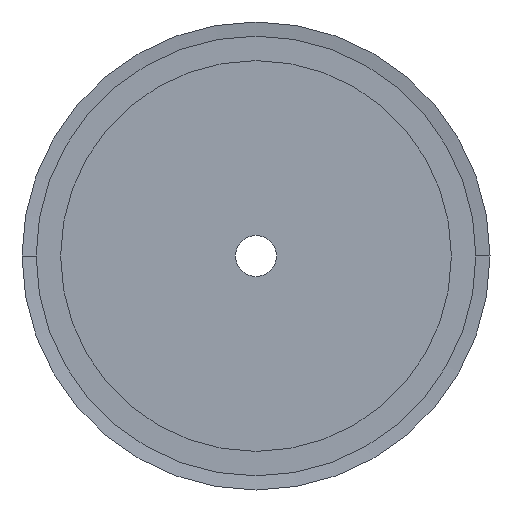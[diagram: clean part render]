
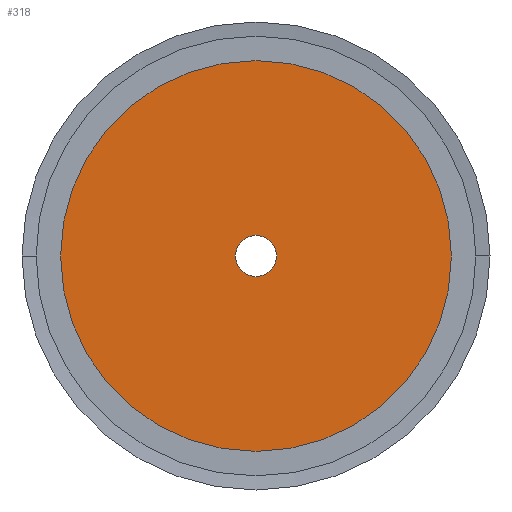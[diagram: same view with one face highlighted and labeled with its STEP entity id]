
A CAD part, left-side view. The second image highlights one B-rep face of the part: STEP entity #318.
In plain terms, the highlighted planar face has unit normal (-1, 0, 0).
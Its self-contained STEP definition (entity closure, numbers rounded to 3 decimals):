
#318 = ADVANCED_FACE( '', ( #812, #813 ), #814, .T. );
#812 = FACE_BOUND( '', #1307, .T. );
#813 = FACE_OUTER_BOUND( '', #1308, .T. );
#814 = PLANE( '', #1309 );
#1307 = EDGE_LOOP( '', ( #3441, #3442 ) );
#1308 = EDGE_LOOP( '', ( #3443, #3444 ) );
#1309 = AXIS2_PLACEMENT_3D( '', #3445, #3446, #3447 );
#3441 = ORIENTED_EDGE( '', *, *, #4145, .F. );
#3442 = ORIENTED_EDGE( '', *, *, #3463, .F. );
#3443 = ORIENTED_EDGE( '', *, *, #3451, .T. );
#3444 = ORIENTED_EDGE( '', *, *, #4150, .T. );
#3445 = CARTESIAN_POINT( '', ( 0., 21., 0. ) );
#3446 = DIRECTION( '', ( -1., 0., 0. ) );
#3447 = DIRECTION( '', ( 0., 1., 0. ) );
#3451 = EDGE_CURVE( '', #4152, #4156, #4158, .T. );
#3463 = EDGE_CURVE( '', #4180, #4176, #4182, .T. );
#4145 = EDGE_CURVE( '', #4176, #4180, #5314, .T. );
#4150 = EDGE_CURVE( '', #4156, #4152, #5319, .T. );
#4152 = VERTEX_POINT( '', #5321 );
#4156 = VERTEX_POINT( '', #5326 );
#4158 = CIRCLE( '', #5329, 38. );
#4176 = VERTEX_POINT( '', #5351 );
#4180 = VERTEX_POINT( '', #5356 );
#4182 = CIRCLE( '', #5359, 4. );
#5314 = CIRCLE( '', #6882, 4. );
#5319 = CIRCLE( '', #6887, 38. );
#5321 = CARTESIAN_POINT( '', ( 0., 38., 0. ) );
#5326 = CARTESIAN_POINT( '', ( 0., -38., 0. ) );
#5329 = AXIS2_PLACEMENT_3D( '', #6893, #6894, #6895 );
#5351 = CARTESIAN_POINT( '', ( 0., 4., 0. ) );
#5356 = CARTESIAN_POINT( '', ( 0., -4., 0. ) );
#5359 = AXIS2_PLACEMENT_3D( '', #6917, #6918, #6919 );
#6882 = AXIS2_PLACEMENT_3D( '', #8181, #8182, #8183 );
#6887 = AXIS2_PLACEMENT_3D( '', #8196, #8197, #8198 );
#6893 = CARTESIAN_POINT( '', ( 0., 0., 0. ) );
#6894 = DIRECTION( '', ( -1., 0., 0. ) );
#6895 = DIRECTION( '', ( 0., 1., 0. ) );
#6917 = CARTESIAN_POINT( '', ( 0., 0., 0. ) );
#6918 = DIRECTION( '', ( -1., 0., 0. ) );
#6919 = DIRECTION( '', ( 0., 1., 0. ) );
#8181 = CARTESIAN_POINT( '', ( 0., 0., 0. ) );
#8182 = DIRECTION( '', ( -1., 0., 0. ) );
#8183 = DIRECTION( '', ( 0., 1., 0. ) );
#8196 = CARTESIAN_POINT( '', ( 0., 0., 0. ) );
#8197 = DIRECTION( '', ( -1., 0., 0. ) );
#8198 = DIRECTION( '', ( 0., 1., 0. ) );
